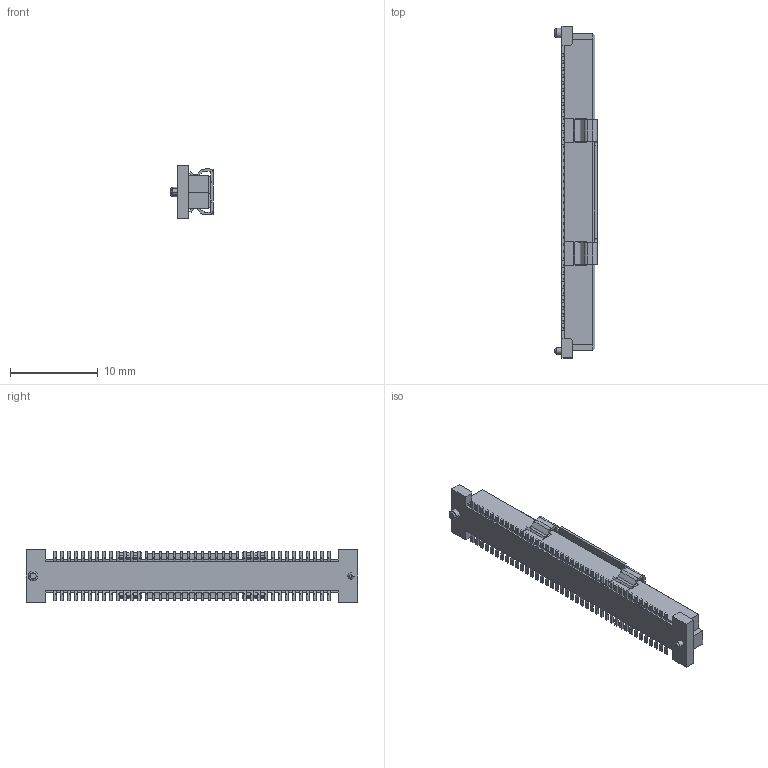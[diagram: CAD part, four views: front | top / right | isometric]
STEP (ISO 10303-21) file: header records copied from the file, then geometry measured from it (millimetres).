
FILE_DESCRIPTION((''),'2;1');
FILE_NAME('PRT0432','2022-11-12T',('k99772'),(''),'PRO/ENGINEER BY PARAMETRIC TECHNOLOGY CORPORATION, 2015070','PRO/ENGINEER BY PARAMETRIC TECHNOLOGY CORPORATION, 2015070','');
FILE_SCHEMA(('CONFIG_CONTROL_DESIGN'));
Products named in the file (1): PRT0432
Bounding box: 4.8 x 37.8 x 6 mm (x, y, z)
Volume: 419.8 mm3; surface area: 1437.9 mm2
Topology: 1 solids, 5 shells, 3958 faces, 10816 edges, 6944 vertices
Faces by surface type: plane 2966, cylinder 828, bspline 162, torus 2
Entity records: 129005 total; most frequent: CARTESIAN_POINT 31467, ORIENTED_EDGE 20984, DIRECTION 18506, EDGE_CURVE 10492, VECTOR 8152, LINE 8152, VERTEX_POINT 6620, AXIS2_PLACEMENT_3D 5177
